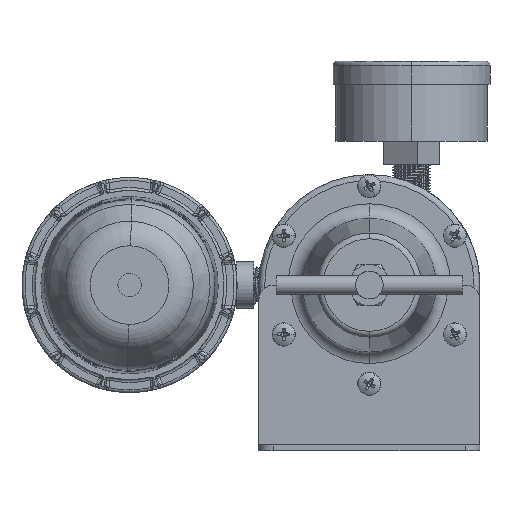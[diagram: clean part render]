
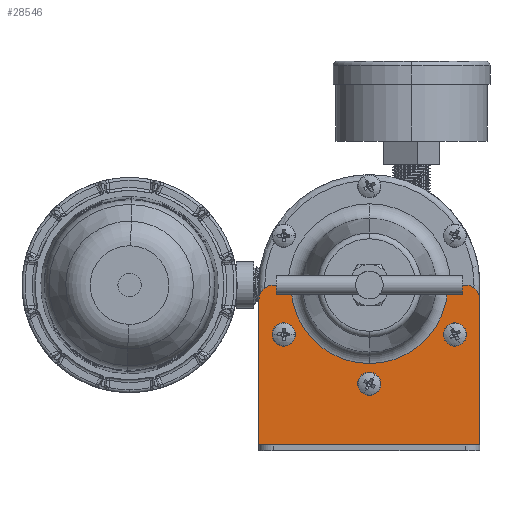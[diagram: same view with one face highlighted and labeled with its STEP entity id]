
A CAD part, front view. The second image highlights one B-rep face of the part: STEP entity #28546.
In plain terms, the highlighted planar face has unit normal (0, -1, 0) as drawn and (0, 1, 0) by its records, which use the part's own axes.
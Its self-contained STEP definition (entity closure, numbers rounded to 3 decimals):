
#46 = ORIENTED_EDGE ( 'NONE', *, *, #2080, .T. ) ;
#131 = DIRECTION ( 'NONE',  ( 1., 0., 0. ) ) ;
#263 = CARTESIAN_POINT ( 'NONE',  ( -38., 2., 57. ) ) ;
#579 = CARTESIAN_POINT ( 'NONE',  ( 0., 2., 25.9 ) ) ;
#821 = VERTEX_POINT ( 'NONE', #38183 ) ;
#1259 = EDGE_LOOP ( 'NONE', ( #37169, #33130 ) ) ;
#1356 = LINE ( 'NONE', #14204, #10295 ) ;
#1622 = ORIENTED_EDGE ( 'NONE', *, *, #6160, .T. ) ;
#1642 = CARTESIAN_POINT ( 'NONE',  ( -33., 2., 52. ) ) ;
#1727 = CARTESIAN_POINT ( 'NONE',  ( 0., 2., 57. ) ) ;
#2080 = EDGE_CURVE ( 'NONE', #6645, #8589, #27183, .T. ) ;
#2097 = DIRECTION ( 'NONE',  ( 0., 1., 0. ) ) ;
#2925 = VERTEX_POINT ( 'NONE', #3384 ) ;
#3384 = CARTESIAN_POINT ( 'NONE',  ( 29.445, 2., 37.1 ) ) ;
#3393 = DIRECTION ( 'NONE',  ( 0., 0., 1. ) ) ;
#3990 = DIRECTION ( 'NONE',  ( 0., 1., 0. ) ) ;
#4228 = EDGE_LOOP ( 'NONE', ( #21679, #6734, #41411, #35113, #42275, #19138, #19491, #1622, #31118, #46 ) ) ;
#4310 = VECTOR ( 'NONE', #15172, 1000. ) ;
#5165 = DIRECTION ( 'NONE',  ( 0., 0., 1. ) ) ;
#5432 = LINE ( 'NONE', #35724, #4310 ) ;
#5472 = CARTESIAN_POINT ( 'NONE',  ( 0., 2., 0. ) ) ;
#5622 = EDGE_CURVE ( 'NONE', #35816, #25623, #42363, .T. ) ;
#6160 = EDGE_CURVE ( 'NONE', #28750, #31458, #26703, .T. ) ;
#6198 = CARTESIAN_POINT ( 'NONE',  ( -29.445, 2., 40. ) ) ;
#6443 = FACE_BOUND ( 'NONE', #22613, .T. ) ;
#6620 = CARTESIAN_POINT ( 'NONE',  ( 29.445, 2., 40. ) ) ;
#6645 = VERTEX_POINT ( 'NONE', #9527 ) ;
#6708 = DIRECTION ( 'NONE',  ( 0., 0., 1. ) ) ;
#6718 = EDGE_CURVE ( 'NONE', #24792, #6992, #27847, .T. ) ;
#6734 = ORIENTED_EDGE ( 'NONE', *, *, #33065, .T. ) ;
#6798 = DIRECTION ( 'NONE',  ( 0., 0., 1. ) ) ;
#6992 = VERTEX_POINT ( 'NONE', #579 ) ;
#7070 = DIRECTION ( 'NONE',  ( 0., 0., 1. ) ) ;
#7918 = CIRCLE ( 'NONE', #10936, 2.9 ) ;
#8589 = VERTEX_POINT ( 'NONE', #34297 ) ;
#8917 = CARTESIAN_POINT ( 'NONE',  ( 0., 2., 23. ) ) ;
#9527 = CARTESIAN_POINT ( 'NONE',  ( 26.936, 2., 55.138 ) ) ;
#10295 = VECTOR ( 'NONE', #131, 1000. ) ;
#10309 = VERTEX_POINT ( 'NONE', #40628 ) ;
#10514 = DIRECTION ( 'NONE',  ( 0., 1., 0. ) ) ;
#10565 = CARTESIAN_POINT ( 'NONE',  ( -29.445, 2., 37.1 ) ) ;
#10800 = EDGE_CURVE ( 'NONE', #44969, #30203, #39925, .T. ) ;
#10936 = AXIS2_PLACEMENT_3D ( 'NONE', #6620, #10514, #7070 ) ;
#12294 = LINE ( 'NONE', #263, #40732 ) ;
#12509 = DIRECTION ( 'NONE',  ( 0., 1., 0. ) ) ;
#12845 = DIRECTION ( 'NONE',  ( 0., 1., 0. ) ) ;
#13412 = CIRCLE ( 'NONE', #39327, 5. ) ;
#14204 = CARTESIAN_POINT ( 'NONE',  ( -38., 2., 57. ) ) ;
#14325 = DIRECTION ( 'NONE',  ( 0., 0., 1. ) ) ;
#14335 = DIRECTION ( 'NONE',  ( 0., 1., 0. ) ) ;
#14490 = CARTESIAN_POINT ( 'NONE',  ( -29.445, 2., 40. ) ) ;
#14744 = DIRECTION ( 'NONE',  ( 0., 1., 0. ) ) ;
#15172 = DIRECTION ( 'NONE',  ( 0., 0., -1. ) ) ;
#15182 = DIRECTION ( 'NONE',  ( 0., 1., 0. ) ) ;
#16536 = CARTESIAN_POINT ( 'NONE',  ( 28.931, 2., 55. ) ) ;
#17416 = ORIENTED_EDGE ( 'NONE', *, *, #40035, .F. ) ;
#18069 = CARTESIAN_POINT ( 'NONE',  ( -38., 2., 0. ) ) ;
#19138 = ORIENTED_EDGE ( 'NONE', *, *, #41677, .T. ) ;
#19165 = DIRECTION ( 'NONE',  ( 0., 0., 1. ) ) ;
#19491 = ORIENTED_EDGE ( 'NONE', *, *, #41539, .T. ) ;
#19556 = DIRECTION ( 'NONE',  ( 0., 0., 1. ) ) ;
#20780 = CARTESIAN_POINT ( 'NONE',  ( 29.445, 2., 42.9 ) ) ;
#21050 = CARTESIAN_POINT ( 'NONE',  ( -38., 2., 52. ) ) ;
#21169 = EDGE_CURVE ( 'NONE', #30203, #44969, #27353, .T. ) ;
#21529 = EDGE_CURVE ( 'NONE', #35816, #821, #42425, .T. ) ;
#21679 = ORIENTED_EDGE ( 'NONE', *, *, #28950, .T. ) ;
#21761 = DIRECTION ( 'NONE',  ( 0., 1., 0. ) ) ;
#22613 = EDGE_LOOP ( 'NONE', ( #43936, #27823 ) ) ;
#22658 = CARTESIAN_POINT ( 'NONE',  ( -26.936, 2., 55.138 ) ) ;
#22680 = CIRCLE ( 'NONE', #25434, 2.9 ) ;
#23160 = AXIS2_PLACEMENT_3D ( 'NONE', #5472, #39933, #5165 ) ;
#23254 = PLANE ( 'NONE',  #23160 ) ;
#23409 = DIRECTION ( 'NONE',  ( 0., 0., 1. ) ) ;
#23571 = EDGE_CURVE ( 'NONE', #6645, #31458, #43490, .T. ) ;
#23594 = CARTESIAN_POINT ( 'NONE',  ( 0., 2., 2. ) ) ;
#23992 = DIRECTION ( 'NONE',  ( 0., 0., 1. ) ) ;
#24792 = VERTEX_POINT ( 'NONE', #45304 ) ;
#25434 = AXIS2_PLACEMENT_3D ( 'NONE', #39110, #14335, #28714 ) ;
#25574 = EDGE_CURVE ( 'NONE', #10309, #821, #5432, .T. ) ;
#25623 = VERTEX_POINT ( 'NONE', #21050 ) ;
#26344 = DIRECTION ( 'NONE',  ( 0., 1., 0. ) ) ;
#26703 = CIRCLE ( 'NONE', #45696, 2. ) ;
#27183 = CIRCLE ( 'NONE', #43254, 2. ) ;
#27353 = CIRCLE ( 'NONE', #35228, 2.9 ) ;
#27823 = ORIENTED_EDGE ( 'NONE', *, *, #21169, .F. ) ;
#27830 = CARTESIAN_POINT ( 'NONE',  ( -38., 2., 2. ) ) ;
#27847 = CIRCLE ( 'NONE', #39751, 2.9 ) ;
#28102 = ORIENTED_EDGE ( 'NONE', *, *, #45698, .F. ) ;
#28546 = ADVANCED_FACE ( 'NONE', ( #6443, #36529, #31559, #29866 ), #23254, .T. ) ;
#28714 = DIRECTION ( 'NONE',  ( 0., 0., 1. ) ) ;
#28750 = VERTEX_POINT ( 'NONE', #41812 ) ;
#28912 = EDGE_LOOP ( 'NONE', ( #28102, #17416 ) ) ;
#28950 = EDGE_CURVE ( 'NONE', #8589, #39383, #1356, .T. ) ;
#29549 = DIRECTION ( 'NONE',  ( 0., 0., 1. ) ) ;
#29552 = AXIS2_PLACEMENT_3D ( 'NONE', #32532, #21761, #6798 ) ;
#29866 = FACE_OUTER_BOUND ( 'NONE', #4228, .T. ) ;
#30203 = VERTEX_POINT ( 'NONE', #10565 ) ;
#31118 = ORIENTED_EDGE ( 'NONE', *, *, #23571, .F. ) ;
#31225 = DIRECTION ( 'NONE',  ( 0., 1., 0. ) ) ;
#31233 = CIRCLE ( 'NONE', #29552, 2.9 ) ;
#31458 = VERTEX_POINT ( 'NONE', #22658 ) ;
#31559 = FACE_BOUND ( 'NONE', #1259, .T. ) ;
#31760 = DIRECTION ( 'NONE',  ( 0., 0., 1. ) ) ;
#32532 = CARTESIAN_POINT ( 'NONE',  ( 0., 2., 23. ) ) ;
#33065 = EDGE_CURVE ( 'NONE', #39383, #10309, #38825, .T. ) ;
#33130 = ORIENTED_EDGE ( 'NONE', *, *, #6718, .F. ) ;
#33414 = CARTESIAN_POINT ( 'NONE',  ( -28.931, 2., 55. ) ) ;
#33478 = VERTEX_POINT ( 'NONE', #20780 ) ;
#33798 = AXIS2_PLACEMENT_3D ( 'NONE', #1727, #12845, #19556 ) ;
#34297 = CARTESIAN_POINT ( 'NONE',  ( 28.931, 2., 57. ) ) ;
#35113 = ORIENTED_EDGE ( 'NONE', *, *, #21529, .F. ) ;
#35115 = AXIS2_PLACEMENT_3D ( 'NONE', #6198, #2097, #23992 ) ;
#35228 = AXIS2_PLACEMENT_3D ( 'NONE', #14490, #3990, #14325 ) ;
#35517 = DIRECTION ( 'NONE',  ( 1., 0., 0. ) ) ;
#35724 = CARTESIAN_POINT ( 'NONE',  ( 38., 2., 0. ) ) ;
#35816 = VERTEX_POINT ( 'NONE', #27830 ) ;
#36529 = FACE_BOUND ( 'NONE', #28912, .T. ) ;
#37169 = ORIENTED_EDGE ( 'NONE', *, *, #42572, .F. ) ;
#38183 = CARTESIAN_POINT ( 'NONE',  ( 38., 2., 2. ) ) ;
#38825 = CIRCLE ( 'NONE', #45966, 5. ) ;
#39110 = CARTESIAN_POINT ( 'NONE',  ( 29.445, 2., 40. ) ) ;
#39233 = CARTESIAN_POINT ( 'NONE',  ( -33., 2., 57. ) ) ;
#39327 = AXIS2_PLACEMENT_3D ( 'NONE', #1642, #26344, #19165 ) ;
#39383 = VERTEX_POINT ( 'NONE', #43484 ) ;
#39751 = AXIS2_PLACEMENT_3D ( 'NONE', #8917, #31225, #6708 ) ;
#39925 = CIRCLE ( 'NONE', #35115, 2.9 ) ;
#39933 = DIRECTION ( 'NONE',  ( 0., 1., 0. ) ) ;
#40035 = EDGE_CURVE ( 'NONE', #2925, #33478, #7918, .T. ) ;
#40628 = CARTESIAN_POINT ( 'NONE',  ( 38., 2., 52. ) ) ;
#40732 = VECTOR ( 'NONE', #35517, 1000. ) ;
#41411 = ORIENTED_EDGE ( 'NONE', *, *, #25574, .T. ) ;
#41539 = EDGE_CURVE ( 'NONE', #44978, #28750, #12294, .T. ) ;
#41677 = EDGE_CURVE ( 'NONE', #25623, #44978, #13412, .T. ) ;
#41812 = CARTESIAN_POINT ( 'NONE',  ( -28.931, 2., 57. ) ) ;
#42275 = ORIENTED_EDGE ( 'NONE', *, *, #5622, .T. ) ;
#42363 = LINE ( 'NONE', #18069, #42948 ) ;
#42396 = CARTESIAN_POINT ( 'NONE',  ( -29.445, 2., 42.9 ) ) ;
#42425 = LINE ( 'NONE', #23594, #45167 ) ;
#42572 = EDGE_CURVE ( 'NONE', #6992, #24792, #31233, .T. ) ;
#42948 = VECTOR ( 'NONE', #3393, 1000. ) ;
#43254 = AXIS2_PLACEMENT_3D ( 'NONE', #16536, #12509, #23409 ) ;
#43484 = CARTESIAN_POINT ( 'NONE',  ( 33., 2., 57. ) ) ;
#43490 = CIRCLE ( 'NONE', #33798, 27. ) ;
#43936 = ORIENTED_EDGE ( 'NONE', *, *, #10800, .F. ) ;
#44495 = DIRECTION ( 'NONE',  ( 1., 0., 0. ) ) ;
#44969 = VERTEX_POINT ( 'NONE', #42396 ) ;
#44978 = VERTEX_POINT ( 'NONE', #39233 ) ;
#45167 = VECTOR ( 'NONE', #44495, 1000. ) ;
#45304 = CARTESIAN_POINT ( 'NONE',  ( 0., 2., 20.1 ) ) ;
#45696 = AXIS2_PLACEMENT_3D ( 'NONE', #33414, #15182, #29549 ) ;
#45698 = EDGE_CURVE ( 'NONE', #33478, #2925, #22680, .T. ) ;
#45908 = CARTESIAN_POINT ( 'NONE',  ( 33., 2., 52. ) ) ;
#45966 = AXIS2_PLACEMENT_3D ( 'NONE', #45908, #14744, #31760 ) ;
